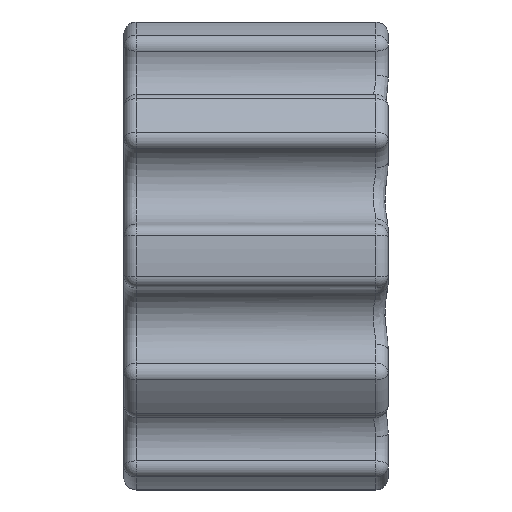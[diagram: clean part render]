
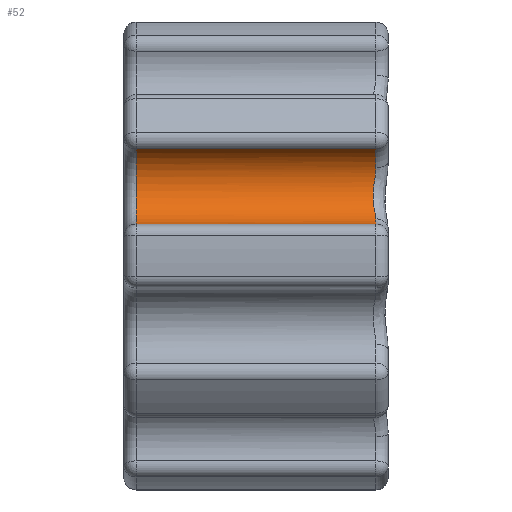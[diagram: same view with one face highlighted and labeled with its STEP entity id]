
A CAD part, front view. The second image highlights one B-rep face of the part: STEP entity #52.
In plain terms, the highlighted cylindrical face has radius 2.54 mm (diameter 5.08 mm), a partial arc.
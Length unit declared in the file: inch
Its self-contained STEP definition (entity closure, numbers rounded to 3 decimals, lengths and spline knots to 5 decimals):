
#52 = ADVANCED_FACE ( 'NONE', ( #1326 ), #7026, .F. ) ;
#235 = EDGE_CURVE ( 'NONE', #4852, #2025, #6793, .T. ) ;
#376 = CARTESIAN_POINT ( 'NONE',  ( 1.59837, -0.45363, 0.14101 ) ) ;
#512 = DIRECTION ( 'NONE',  ( 0., 0., -1. ) ) ;
#594 = EDGE_CURVE ( 'NONE', #3154, #3578, #4630, .T. ) ;
#676 = VECTOR ( 'NONE', #936, 39.37008 ) ;
#776 = AXIS2_PLACEMENT_3D ( 'NONE', #3347, #1651, #5773 ) ;
#845 = CARTESIAN_POINT ( 'NONE',  ( -0.725, -0.54686, 0.17768 ) ) ;
#936 = DIRECTION ( 'NONE',  ( -1., 0., 0. ) ) ;
#974 = CARTESIAN_POINT ( 'NONE',  ( 1.60556, -0.4966, 0.09123 ) ) ;
#1154 = CARTESIAN_POINT ( 'NONE',  ( 1.01556, -0.54686, 0.07768 ) ) ;
#1195 = EDGE_CURVE ( 'NONE', #3578, #4852, #3133, .T. ) ;
#1243 = DIRECTION ( 'NONE',  ( 1., 0., 0. ) ) ;
#1308 = VERTEX_POINT ( 'NONE', #1154 ) ;
#1326 = FACE_OUTER_BOUND ( 'NONE', #7378, .T. ) ;
#1426 = CARTESIAN_POINT ( 'NONE',  ( 1.59837, -0.44986, 0.15262 ) ) ;
#1534 = CARTESIAN_POINT ( 'NONE',  ( 1.60556, -0.45538, 0.21809 ) ) ;
#1597 = CARTESIAN_POINT ( 'NONE',  ( 1.60556, -0.54686, 0.17768 ) ) ;
#1646 = VERTEX_POINT ( 'NONE', #4661 ) ;
#1651 = DIRECTION ( 'NONE',  ( 1., 0., 0. ) ) ;
#1944 = DIRECTION ( 'NONE',  ( 0., 0., 1. ) ) ;
#2025 = VERTEX_POINT ( 'NONE', #5853 ) ;
#2086 = ORIENTED_EDGE ( 'NONE', *, *, #235, .T. ) ;
#2122 = CIRCLE ( 'NONE', #5010, 0.1 ) ;
#2212 = ORIENTED_EDGE ( 'NONE', *, *, #2321, .T. ) ;
#2321 = EDGE_CURVE ( 'NONE', #1646, #1308, #2122, .T. ) ;
#2652 = CARTESIAN_POINT ( 'NONE',  ( 1.60268, -0.4473, 0.18886 ) ) ;
#2837 = ORIENTED_EDGE ( 'NONE', *, *, #3747, .T. ) ;
#2898 = ORIENTED_EDGE ( 'NONE', *, *, #594, .T. ) ;
#3009 = CARTESIAN_POINT ( 'NONE',  ( -0.725, -0.54686, 0.07768 ) ) ;
#3035 = DIRECTION ( 'NONE',  ( -1., 0., 0. ) ) ;
#3133 = B_SPLINE_CURVE_WITH_KNOTS ( 'NONE', 3,
 ( #974, #6602, #3754, #3864, #6075, #4932, #376, #1426, #6039, #7238, #3261, #2652, #7206, #5568, #5501, #1534 ),
 .UNSPECIFIED., .F., .F.,
 ( 4, 2, 2, 2, 2, 2, 2, 4 ),
 ( 0., 0.00094, 0.00141, 0.00187, 0.00234, 0.00281, 0.00328, 0.00375 ),
 .UNSPECIFIED. ) ;
#3154 = VERTEX_POINT ( 'NONE', #6319 ) ;
#3261 = CARTESIAN_POINT ( 'NONE',  ( 1.60084, -0.44668, 0.17674 ) ) ;
#3347 = CARTESIAN_POINT ( 'NONE',  ( 1.60556, -0.54686, 0.17768 ) ) ;
#3578 = VERTEX_POINT ( 'NONE', #6193 ) ;
#3663 = DIRECTION ( 'NONE',  ( 1., 0., 0. ) ) ;
#3720 = ORIENTED_EDGE ( 'NONE', *, *, #5591, .T. ) ;
#3747 = EDGE_CURVE ( 'NONE', #1308, #3154, #6344, .T. ) ;
#3754 = CARTESIAN_POINT ( 'NONE',  ( 1.60357, -0.47658, 0.10553 ) ) ;
#3864 = CARTESIAN_POINT ( 'NONE',  ( 1.60083, -0.46521, 0.11963 ) ) ;
#4267 = DIRECTION ( 'NONE',  ( 0., 0., -1. ) ) ;
#4630 = CIRCLE ( 'NONE', #5713, 0.1 ) ;
#4661 = CARTESIAN_POINT ( 'NONE',  ( 1.01556, -0.49518, 0.2633 ) ) ;
#4851 = CARTESIAN_POINT ( 'NONE',  ( -0.725, -0.49518, 0.2633 ) ) ;
#4852 = VERTEX_POINT ( 'NONE', #7359 ) ;
#4932 = CARTESIAN_POINT ( 'NONE',  ( 1.59872, -0.45602, 0.13544 ) ) ;
#5010 = AXIS2_PLACEMENT_3D ( 'NONE', #5916, #3035, #1944 ) ;
#5501 = CARTESIAN_POINT ( 'NONE',  ( 1.60556, -0.45288, 0.21242 ) ) ;
#5568 = CARTESIAN_POINT ( 'NONE',  ( 1.60507, -0.45096, 0.20666 ) ) ;
#5591 = EDGE_CURVE ( 'NONE', #2025, #1646, #7231, .T. ) ;
#5708 = AXIS2_PLACEMENT_3D ( 'NONE', #845, #3663, #4267 ) ;
#5713 = AXIS2_PLACEMENT_3D ( 'NONE', #1597, #6814, #512 ) ;
#5773 = DIRECTION ( 'NONE',  ( 0., 0., -1. ) ) ;
#5853 = CARTESIAN_POINT ( 'NONE',  ( 1.60556, -0.49518, 0.2633 ) ) ;
#5916 = CARTESIAN_POINT ( 'NONE',  ( 1.01556, -0.54686, 0.17768 ) ) ;
#6039 = CARTESIAN_POINT ( 'NONE',  ( 1.59873, -0.44849, 0.15869 ) ) ;
#6075 = CARTESIAN_POINT ( 'NONE',  ( 1.59995, -0.4618, 0.12475 ) ) ;
#6193 = CARTESIAN_POINT ( 'NONE',  ( 1.60556, -0.4966, 0.09123 ) ) ;
#6319 = CARTESIAN_POINT ( 'NONE',  ( 1.60556, -0.54686, 0.07768 ) ) ;
#6344 = LINE ( 'NONE', #3009, #6586 ) ;
#6586 = VECTOR ( 'NONE', #1243, 39.37008 ) ;
#6602 = CARTESIAN_POINT ( 'NONE',  ( 1.60556, -0.48591, 0.09744 ) ) ;
#6793 = CIRCLE ( 'NONE', #776, 0.1 ) ;
#6814 = DIRECTION ( 'NONE',  ( 1., 0., 0. ) ) ;
#7017 = ORIENTED_EDGE ( 'NONE', *, *, #1195, .T. ) ;
#7026 = CYLINDRICAL_SURFACE ( 'NONE', #5708, 0.1 ) ;
#7206 = CARTESIAN_POINT ( 'NONE',  ( 1.60363, -0.44817, 0.1949 ) ) ;
#7231 = LINE ( 'NONE', #4851, #676 ) ;
#7238 = CARTESIAN_POINT ( 'NONE',  ( 1.59997, -0.44692, 0.17072 ) ) ;
#7359 = CARTESIAN_POINT ( 'NONE',  ( 1.60556, -0.45538, 0.21809 ) ) ;
#7378 = EDGE_LOOP ( 'NONE', ( #2212, #2837, #2898, #7017, #2086, #3720 ) ) ;
